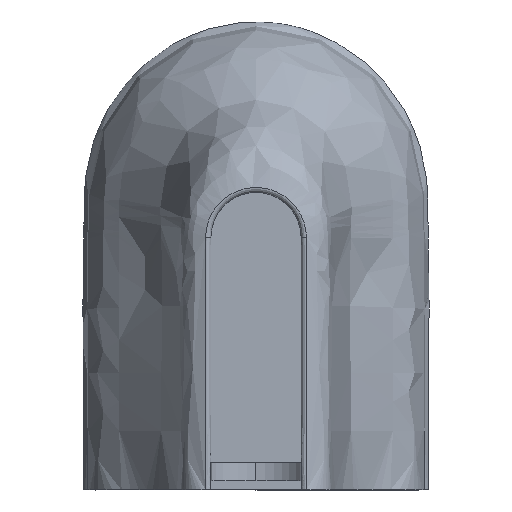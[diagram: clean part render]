
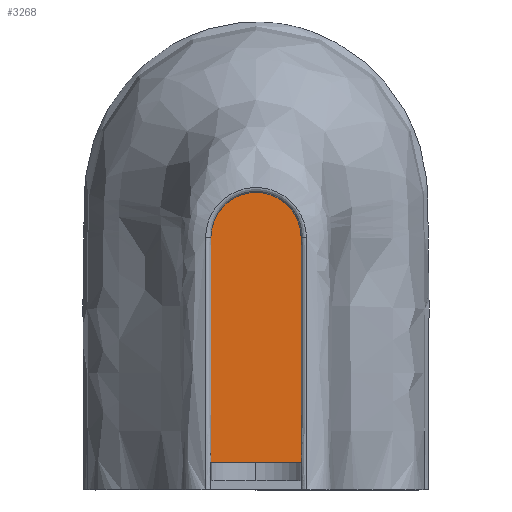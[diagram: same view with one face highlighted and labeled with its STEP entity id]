
A CAD part, front view. The second image highlights one B-rep face of the part: STEP entity #3268.
In plain terms, the highlighted planar face has unit normal (0, -1, 0).
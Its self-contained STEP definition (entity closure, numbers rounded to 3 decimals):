
#65 = EDGE_CURVE ( 'NONE', #10469, #4608, #4945, .T. ) ;
#407 = AXIS2_PLACEMENT_3D ( 'NONE', #10243, #4578, #2167 ) ;
#568 = VECTOR ( 'NONE', #4292, 1000. ) ;
#586 = VECTOR ( 'NONE', #7586, 1000. ) ;
#1898 = VERTEX_POINT ( 'NONE', #5065 ) ;
#2097 = DIRECTION ( 'NONE',  ( 1., 0., 0. ) ) ;
#2167 = DIRECTION ( 'NONE',  ( 0., 0., -1. ) ) ;
#2918 = PLANE ( 'NONE',  #407 ) ;
#3233 = DIRECTION ( 'NONE',  ( 0., -1., 0. ) ) ;
#3268 = ADVANCED_FACE ( 'NONE', ( #9500 ), #2918, .T. ) ;
#3812 = EDGE_LOOP ( 'NONE', ( #10574, #9289, #6572, #5281, #4205, #9129 ) ) ;
#3821 = CARTESIAN_POINT ( 'NONE',  ( 50., -310., 280. ) ) ;
#3828 = AXIS2_PLACEMENT_3D ( 'NONE', #4232, #3233, #4187 ) ;
#3852 = CARTESIAN_POINT ( 'NONE',  ( -50., -310., 280. ) ) ;
#3872 = LINE ( 'NONE', #6208, #9625 ) ;
#3983 = CARTESIAN_POINT ( 'NONE',  ( -50., -310., 30. ) ) ;
#4146 = CARTESIAN_POINT ( 'NONE',  ( 69.736, -310., 30. ) ) ;
#4187 = DIRECTION ( 'NONE',  ( 0., 0., -1. ) ) ;
#4205 = ORIENTED_EDGE ( 'NONE', *, *, #5288, .T. ) ;
#4232 = CARTESIAN_POINT ( 'NONE',  ( 0., -310., 280. ) ) ;
#4292 = DIRECTION ( 'NONE',  ( -1., 0., 0. ) ) ;
#4329 = VECTOR ( 'NONE', #2097, 1000. ) ;
#4330 = CARTESIAN_POINT ( 'NONE',  ( 50., -310., 30. ) ) ;
#4578 = DIRECTION ( 'NONE',  ( 0., -1., 0. ) ) ;
#4608 = VERTEX_POINT ( 'NONE', #8664 ) ;
#4617 = LINE ( 'NONE', #7236, #4329 ) ;
#4677 = LINE ( 'NONE', #6324, #5656 ) ;
#4945 = LINE ( 'NONE', #4146, #568 ) ;
#5065 = CARTESIAN_POINT ( 'NONE',  ( 50., -310., 30. ) ) ;
#5281 = ORIENTED_EDGE ( 'NONE', *, *, #7899, .T. ) ;
#5288 = EDGE_CURVE ( 'NONE', #1898, #10154, #5340, .T. ) ;
#5340 = LINE ( 'NONE', #4330, #586 ) ;
#5656 = VECTOR ( 'NONE', #6486, 1000. ) ;
#5697 = CIRCLE ( 'NONE', #3828, 50. ) ;
#6208 = CARTESIAN_POINT ( 'NONE',  ( -50., -310., 280. ) ) ;
#6324 = CARTESIAN_POINT ( 'NONE',  ( -50., -310., 30. ) ) ;
#6486 = DIRECTION ( 'NONE',  ( 1., 0., 0. ) ) ;
#6572 = ORIENTED_EDGE ( 'NONE', *, *, #65, .F. ) ;
#7070 = DIRECTION ( 'NONE',  ( 0., 0., -1. ) ) ;
#7236 = CARTESIAN_POINT ( 'NONE',  ( -50., -310., 30. ) ) ;
#7586 = DIRECTION ( 'NONE',  ( 0., 0., 1. ) ) ;
#7899 = EDGE_CURVE ( 'NONE', #10469, #1898, #4677, .T. ) ;
#8487 = VERTEX_POINT ( 'NONE', #3852 ) ;
#8664 = CARTESIAN_POINT ( 'NONE',  ( -49.786, -310., 30. ) ) ;
#9027 = VERTEX_POINT ( 'NONE', #3983 ) ;
#9129 = ORIENTED_EDGE ( 'NONE', *, *, #9326, .T. ) ;
#9289 = ORIENTED_EDGE ( 'NONE', *, *, #10121, .T. ) ;
#9326 = EDGE_CURVE ( 'NONE', #10154, #8487, #5697, .T. ) ;
#9500 = FACE_OUTER_BOUND ( 'NONE', #3812, .T. ) ;
#9625 = VECTOR ( 'NONE', #7070, 1000. ) ;
#9861 = CARTESIAN_POINT ( 'NONE',  ( 49.786, -310., 30. ) ) ;
#10121 = EDGE_CURVE ( 'NONE', #9027, #4608, #4617, .T. ) ;
#10154 = VERTEX_POINT ( 'NONE', #3821 ) ;
#10243 = CARTESIAN_POINT ( 'NONE',  ( 0., -310., 280. ) ) ;
#10469 = VERTEX_POINT ( 'NONE', #9861 ) ;
#10524 = EDGE_CURVE ( 'NONE', #8487, #9027, #3872, .T. ) ;
#10574 = ORIENTED_EDGE ( 'NONE', *, *, #10524, .T. ) ;
